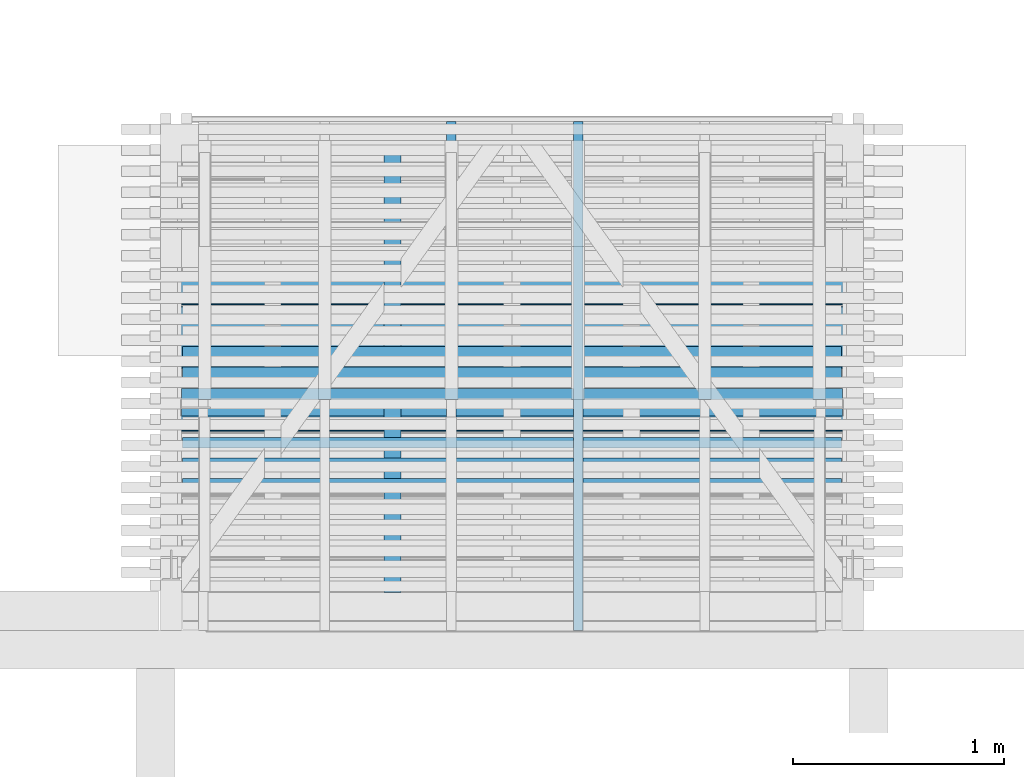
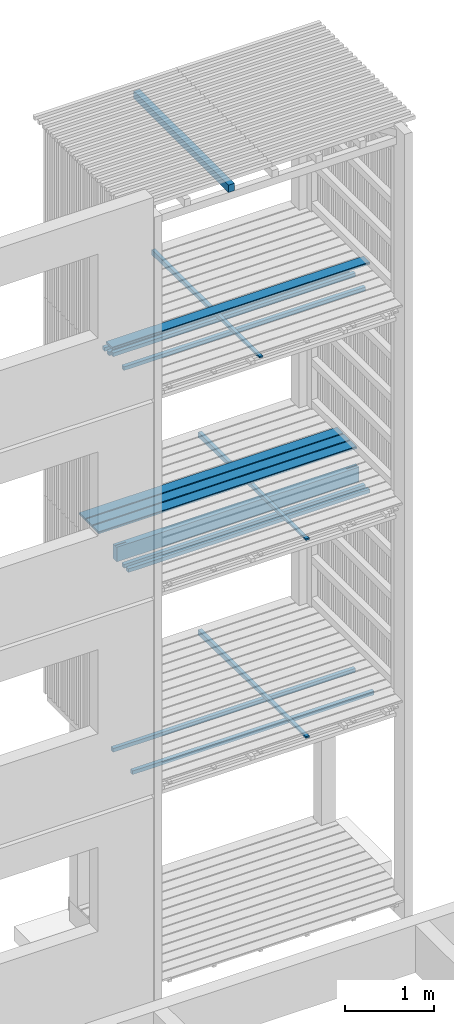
# One storey, part 122 of 182: 17 beams.
"""IFC2X3 building model written with IfcOpenShell, lengths in metres."""

from ifc_helpers import new_model, si_unit, frame, origin, place, context, project, spatial, faceted_brep, element, save


model = new_model("IFC2X3")

# Units and contexts
model_context = context("Model", 3, precision=1e-06, world=origin())
ifc_project = project(units=[si_unit("LENGTHUNIT", "METRE"), si_unit("PLANEANGLEUNIT", "RADIAN")], contexts=[model_context])

# Site, building, storey
site = spatial("IfcSite", under=ifc_project, CompositionType="ELEMENT")
building = spatial("IfcBuilding", under=site, CompositionType="ELEMENT")
storey = spatial("IfcBuildingStorey", under=building, Name="vs", CompositionType="ELEMENT", Elevation=-0.85)

# Beams
placement = place(None, origin())
beam_1_placement = place(placement, frame((54.40299999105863, 4.870077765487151, 8.084400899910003), z_axis=(0.0, 0.0, 1.0), x_axis=(0.0, 1.0, 0.0)))
element("IfcBeam", 1, at=beam_1_placement, inside=storey, Name="Calage", context=model_context, shape_type="Brep", body=[
    faceted_brep([(2.410000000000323, -0.022499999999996, -0.035599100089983), (0.0, -0.022499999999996, 0.012600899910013), (0.0, 0.022500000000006, 0.012600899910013), (2.410000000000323, 0.022500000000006, -0.035599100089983), (0.0, 0.022500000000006, 0.035599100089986), (0.0, 0.022500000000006, 0.012600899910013), (0.0, -0.022499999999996, 0.012600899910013), (0.0, -0.022499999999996, 0.035599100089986), (2.410000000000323, 0.022500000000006, -0.035599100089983), (0.0, 0.022500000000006, 0.012600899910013), (0.0, 0.022500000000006, 0.035599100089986), (2.410000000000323, 0.022500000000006, 0.035599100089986), (2.410000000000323, -0.022499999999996, 0.035599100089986), (0.0, -0.022499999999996, 0.035599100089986), (0.0, -0.022499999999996, 0.012600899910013), (2.410000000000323, -0.022499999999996, -0.035599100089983), (2.410000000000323, 0.022500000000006, 0.035599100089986), (0.0, 0.022500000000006, 0.035599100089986), (0.0, -0.022499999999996, 0.035599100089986), (2.410000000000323, -0.022499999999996, 0.035599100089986), (2.410000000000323, 0.022500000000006, -0.035599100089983), (2.410000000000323, 0.022500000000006, 0.035599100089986), (2.410000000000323, -0.022499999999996, 0.035599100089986), (2.410000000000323, -0.022499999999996, -0.035599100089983)], [[[0, 1, 2, 3]], [[4, 5, 6, 7]], [[8, 9, 10, 11]], [[12, 13, 14, 15]], [[16, 17, 18, 19]], [[20, 21, 22, 23]]]),
])
beam_2_placement = place(placement, frame((56.35499999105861, 6.184577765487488, 5.433499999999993), z_axis=(0.0, 0.0, 1.0), x_axis=(-1.0, -8e-15, 0.0)))
element("IfcBeam", 2, at=beam_2_placement, inside=storey, Name="Caillebotis", context=model_context, shape_type="Brep", body=[
    faceted_brep([(3.329999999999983, -0.072500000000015, -0.0135), (3.329999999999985, 0.072499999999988, -0.0135), (3.329999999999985, 0.072499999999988, 0.0085), (3.329999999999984, 0.067499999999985, 0.0135), (3.329999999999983, -0.067500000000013, 0.0135), (3.329999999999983, -0.072500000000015, 0.008500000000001), (-1.5e-14, -0.072499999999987, 0.008500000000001), (-1.5e-14, -0.067499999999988, 0.0135), (-1.4e-14, 0.067500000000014, 0.0135), (-1.4e-14, 0.072500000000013, 0.0085), (-1.4e-14, 0.072500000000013, -0.0135), (-1.5e-14, -0.072499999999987, -0.0135), (3.329999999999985, 0.072499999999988, 0.0085), (3.329999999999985, 0.072499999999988, -0.0135), (-1.4e-14, 0.072500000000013, -0.0135), (-1.4e-14, 0.072500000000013, 0.0085), (3.329999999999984, 0.067499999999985, 0.0135), (3.329999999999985, 0.072499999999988, 0.0085), (-1.4e-14, 0.072500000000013, 0.0085), (-1.4e-14, 0.067500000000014, 0.0135), (3.329999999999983, -0.067500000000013, 0.0135), (3.329999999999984, 0.067499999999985, 0.0135), (-1.4e-14, 0.067500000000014, 0.0135), (-1.5e-14, -0.067499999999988, 0.0135), (3.329999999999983, -0.072500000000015, 0.008500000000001), (3.329999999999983, -0.067500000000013, 0.0135), (-1.5e-14, -0.067499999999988, 0.0135), (-1.5e-14, -0.072499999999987, 0.008500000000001), (3.329999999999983, -0.072500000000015, -0.0135), (3.329999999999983, -0.072500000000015, 0.008500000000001), (-1.5e-14, -0.072499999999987, 0.008500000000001), (-1.5e-14, -0.072499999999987, -0.0135), (-1.4e-14, 0.072500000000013, -0.0135), (3.329999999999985, 0.072499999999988, -0.0135), (3.329999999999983, -0.072500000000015, -0.0135), (-1.5e-14, -0.072499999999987, -0.0135)], [[[0, 1, 2, 3, 4, 5]], [[6, 7, 8, 9, 10, 11]], [[12, 13, 14, 15]], [[16, 17, 18, 19]], [[20, 21, 22, 23]], [[24, 25, 26, 27]], [[28, 29, 30, 31]], [[32, 33, 34, 35]]]),
])
beam_3_placement = place(placement, frame((56.24999999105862, 5.564452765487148, 2.467999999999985), z_axis=(0.0, 0.0, 1.0), x_axis=(-1.0, 0.0, 0.0)))
element("IfcBeam", 3, at=beam_3_placement, inside=storey, Name="Bardage", context=model_context, shape_type="Brep", body=[
    faceted_brep([(3.120000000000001, 0.025000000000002, -0.025), (3.120000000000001, -0.024999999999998, -0.025), (-3e-15, -0.024999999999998, -0.025), (-3e-15, 0.024999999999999, -0.025), (-3e-15, -0.024999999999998, -0.025), (3.120000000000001, -0.024999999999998, -0.025), (3.120000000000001, -0.024999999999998, 0.025), (-3e-15, -0.024999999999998, 0.025), (3.120000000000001, -0.024999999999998, -0.025), (3.120000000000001, 0.025000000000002, -0.025), (3.120000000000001, 0.025000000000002, 0.025), (3.120000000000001, -0.024999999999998, 0.025), (3.120000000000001, 0.025000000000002, 0.025), (3.120000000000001, 0.025000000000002, -0.025), (-3e-15, 0.024999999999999, -0.025), (-3e-15, 0.024999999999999, 0.025), (-3e-15, -0.024999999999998, 0.025), (3.120000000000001, -0.024999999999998, 0.025), (3.120000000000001, 0.025000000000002, 0.025), (-3e-15, 0.024999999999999, 0.025), (-3e-15, -0.024999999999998, -0.025), (-3e-15, -0.024999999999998, 0.025), (-3e-15, 0.024999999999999, 0.025), (-3e-15, 0.024999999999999, -0.025)], [[[0, 1, 2, 3]], [[4, 5, 6, 7]], [[8, 9, 10, 11]], [[12, 13, 14, 15]], [[16, 17, 18, 19]], [[20, 21, 22, 23]]]),
])
beam_4_placement = place(placement, frame((53.124999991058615, 5.990077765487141, 2.517399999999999), z_axis=(0.0, 0.0, 1.0), x_axis=(1.0, 0.0, 0.0)))
element("IfcBeam", 4, at=beam_4_placement, inside=storey, Name="Ligneul", context=model_context, shape_type="Brep", body=[
    faceted_brep([(4e-15, -0.024999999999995, 0.025), (4e-15, -0.024999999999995, -0.025), (3.129999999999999, -0.024999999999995, -0.025), (3.129999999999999, -0.024999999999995, 0.025), (4e-15, 0.025000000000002, 0.025), (4e-15, -0.024999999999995, 0.025), (3.129999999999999, -0.024999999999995, 0.025), (3.129999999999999, 0.025000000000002, 0.025), (4e-15, -0.024999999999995, 0.025), (4e-15, 0.025000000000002, 0.025), (4e-15, 0.025000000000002, -0.025), (4e-15, -0.024999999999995, -0.025), (4e-15, 0.025000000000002, -0.025), (4e-15, 0.025000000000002, 0.025), (3.129999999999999, 0.025000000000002, 0.025), (3.129999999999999, 0.025000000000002, -0.025), (3.129999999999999, -0.024999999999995, -0.025), (4e-15, -0.024999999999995, -0.025), (4e-15, 0.025000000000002, -0.025), (3.129999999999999, 0.025000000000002, -0.025), (3.129999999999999, -0.024999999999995, 0.025), (3.129999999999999, -0.024999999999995, -0.025), (3.129999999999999, 0.025000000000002, -0.025), (3.129999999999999, 0.025000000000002, 0.025)], [[[0, 1, 2, 3]], [[4, 5, 6, 7]], [[8, 9, 10, 11]], [[12, 13, 14, 15]], [[16, 17, 18, 19]], [[20, 21, 22, 23]]]),
])
beam_5_placement = place(placement, frame((55.00299999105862, 4.870077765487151, 5.384400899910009), z_axis=(0.0, 0.0, 1.0), x_axis=(0.0, 1.0, 0.0)))
element("IfcBeam", 5, at=beam_5_placement, inside=storey, Name="Calage", context=model_context, shape_type="Brep", body=[
    faceted_brep([(2.410000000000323, -0.022499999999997, -0.035599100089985), (0.0, -0.022499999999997, 0.012600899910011), (0.0, 0.022500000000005, 0.012600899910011), (2.410000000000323, 0.02249999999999, -0.035599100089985), (0.0, 0.022500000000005, 0.035599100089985), (0.0, 0.022500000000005, 0.012600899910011), (0.0, -0.022499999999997, 0.012600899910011), (0.0, -0.022499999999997, 0.035599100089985), (2.410000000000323, 0.02249999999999, -0.035599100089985), (0.0, 0.022500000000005, 0.012600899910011), (0.0, 0.022500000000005, 0.035599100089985), (2.410000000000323, 0.022500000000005, 0.035599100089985), (2.410000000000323, -0.022499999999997, 0.035599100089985), (0.0, -0.022499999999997, 0.035599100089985), (0.0, -0.022499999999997, 0.012600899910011), (2.410000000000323, -0.022499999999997, -0.035599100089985), (2.410000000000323, 0.022500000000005, 0.035599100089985), (0.0, 0.022500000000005, 0.035599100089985), (0.0, -0.022499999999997, 0.035599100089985), (2.410000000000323, -0.022499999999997, 0.035599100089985), (2.410000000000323, 0.02249999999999, -0.035599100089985), (2.410000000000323, 0.022500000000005, 0.035599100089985), (2.410000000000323, -0.022499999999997, 0.035599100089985), (2.410000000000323, -0.022499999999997, -0.035599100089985)], [[[0, 1, 2, 3]], [[4, 5, 6, 7]], [[8, 9, 10, 11]], [[12, 13, 14, 15]], [[16, 17, 18, 19]], [[20, 21, 22, 23]]]),
])
beam_6_placement = place(placement, frame((53.124999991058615, 5.990077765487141, 7.917399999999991), z_axis=(0.0, 0.0, 1.0), x_axis=(1.0, 0.0, 0.0)))
element("IfcBeam", 6, at=beam_6_placement, inside=storey, Name="Ligneul", context=model_context, shape_type="Brep", body=[
    faceted_brep([(4e-15, -0.024999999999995, 0.024999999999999), (4e-15, -0.024999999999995, -0.025000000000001), (3.129999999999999, -0.024999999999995, -0.025000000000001), (3.129999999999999, -0.024999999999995, 0.024999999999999), (4e-15, 0.025000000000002, 0.024999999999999), (4e-15, -0.024999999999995, 0.024999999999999), (3.129999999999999, -0.024999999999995, 0.024999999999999), (3.129999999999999, 0.025000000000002, 0.024999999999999), (4e-15, -0.024999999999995, 0.024999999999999), (4e-15, 0.025000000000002, 0.024999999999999), (4e-15, 0.025000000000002, -0.025000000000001), (4e-15, -0.024999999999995, -0.025000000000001), (4e-15, 0.025000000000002, -0.025000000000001), (4e-15, 0.025000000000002, 0.024999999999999), (3.129999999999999, 0.025000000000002, 0.024999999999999), (3.129999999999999, 0.025000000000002, -0.025000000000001), (3.129999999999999, -0.024999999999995, -0.025000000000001), (4e-15, -0.024999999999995, -0.025000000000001), (4e-15, 0.025000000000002, -0.025000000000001), (3.129999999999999, 0.025000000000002, -0.025000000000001), (3.129999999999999, -0.024999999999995, 0.024999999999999), (3.129999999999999, -0.024999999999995, -0.025000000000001), (3.129999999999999, 0.025000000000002, -0.025000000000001), (3.129999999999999, 0.025000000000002, 0.024999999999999)], [[[0, 1, 2, 3]], [[4, 5, 6, 7]], [[8, 9, 10, 11]], [[12, 13, 14, 15]], [[16, 17, 18, 19]], [[20, 21, 22, 23]]]),
])
beam_7_placement = place(placement, frame((55.00299999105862, 4.870077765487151, 2.684400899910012), z_axis=(0.0, 0.0, 1.0), x_axis=(0.0, 1.0, 0.0)))
element("IfcBeam", 7, at=beam_7_placement, inside=storey, Name="Calage", context=model_context, shape_type="Brep", body=[
    faceted_brep([(2.410000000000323, -0.022499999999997, -0.035599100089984), (0.0, -0.022499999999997, 0.012600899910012), (0.0, 0.022500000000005, 0.012600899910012), (2.410000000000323, 0.02249999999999, -0.035599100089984), (0.0, 0.022500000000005, 0.035599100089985), (0.0, 0.022500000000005, 0.012600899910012), (0.0, -0.022499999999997, 0.012600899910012), (0.0, -0.022499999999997, 0.035599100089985), (2.410000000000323, 0.02249999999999, -0.035599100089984), (0.0, 0.022500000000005, 0.012600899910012), (0.0, 0.022500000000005, 0.035599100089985), (2.410000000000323, 0.022500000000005, 0.035599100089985), (2.410000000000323, -0.022499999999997, 0.035599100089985), (0.0, -0.022499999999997, 0.035599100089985), (0.0, -0.022499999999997, 0.012600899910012), (2.410000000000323, -0.022499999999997, -0.035599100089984), (2.410000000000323, 0.022500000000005, 0.035599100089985), (0.0, 0.022500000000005, 0.035599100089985), (0.0, -0.022499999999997, 0.035599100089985), (2.410000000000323, -0.022499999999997, 0.035599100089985), (2.410000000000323, 0.02249999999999, -0.035599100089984), (2.410000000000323, 0.022500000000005, 0.035599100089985), (2.410000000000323, -0.022499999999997, 0.035599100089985), (2.410000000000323, -0.022499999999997, -0.035599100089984)], [[[0, 1, 2, 3]], [[4, 5, 6, 7]], [[8, 9, 10, 11]], [[12, 13, 14, 15]], [[16, 17, 18, 19]], [[20, 21, 22, 23]]]),
])
beam_8_placement = place(placement, frame((56.24999999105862, 5.661327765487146, 5.167999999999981), z_axis=(0.0, 0.0, 1.0), x_axis=(-1.0, 0.0, 0.0)))
element("IfcBeam", 8, at=beam_8_placement, inside=storey, Name="Bardage", context=model_context, shape_type="Brep", body=[
    faceted_brep([(3.120000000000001, 0.024999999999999, -0.025), (3.120000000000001, -0.024999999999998, -0.025), (-3e-15, -0.025000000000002, -0.025), (-3e-15, 0.024999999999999, -0.025), (-3e-15, -0.025000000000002, -0.025), (3.120000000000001, -0.024999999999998, -0.025), (3.120000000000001, -0.024999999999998, 0.025000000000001), (-3e-15, -0.025000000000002, 0.025000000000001), (3.120000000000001, -0.024999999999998, -0.025), (3.120000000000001, 0.024999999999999, -0.025), (3.120000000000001, 0.024999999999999, 0.025000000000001), (3.120000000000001, -0.024999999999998, 0.025000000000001), (3.120000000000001, 0.024999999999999, 0.025000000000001), (3.120000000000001, 0.024999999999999, -0.025), (-3e-15, 0.024999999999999, -0.025), (-3e-15, 0.024999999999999, 0.025000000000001), (-3e-15, -0.025000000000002, 0.025000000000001), (3.120000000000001, -0.024999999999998, 0.025000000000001), (3.120000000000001, 0.024999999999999, 0.025000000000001), (-3e-15, 0.024999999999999, 0.025000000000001), (-3e-15, -0.025000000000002, -0.025), (-3e-15, -0.025000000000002, 0.025000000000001), (-3e-15, 0.024999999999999, 0.025000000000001), (-3e-15, 0.024999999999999, -0.025)], [[[0, 1, 2, 3]], [[4, 5, 6, 7]], [[8, 9, 10, 11]], [[12, 13, 14, 15]], [[16, 17, 18, 19]], [[20, 21, 22, 23]]]),
])
beam_9_placement = place(placement, frame((56.25499999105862, 5.925077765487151, 5.239999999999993), z_axis=(0.0, 0.0, 1.0), x_axis=(-1.0, -2e-15, 0.0)))
element("IfcBeam", 9, at=beam_9_placement, inside=storey, Name="Sommier", context=model_context, shape_type="Brep", body=[
    faceted_brep([(0.137000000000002, -0.003999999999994, -0.100000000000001), (1e-15, -0.003999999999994, -0.100000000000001), (1e-15, -0.003999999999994, 0.100000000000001), (0.137000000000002, -0.003999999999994, 0.100000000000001), (0.137000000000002, 0.004000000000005, -0.100000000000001), (0.137000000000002, -0.003999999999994, -0.100000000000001), (0.137000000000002, -0.003999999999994, 0.100000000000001), (0.137000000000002, 0.004000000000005, 0.100000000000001), (1e-15, 0.004000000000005, -0.100000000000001), (0.137000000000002, 0.004000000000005, -0.100000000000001), (0.137000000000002, 0.004000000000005, 0.100000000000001), (1e-15, 0.004000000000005, 0.100000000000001), (1e-15, -0.003999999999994, 0.100000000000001), (1e-15, -0.003999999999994, -0.100000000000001), (1e-15, -0.039999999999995, -0.100000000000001), (1e-15, -0.039999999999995, 0.100000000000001), (1e-15, 0.040000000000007, 0.100000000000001), (1e-15, 0.040000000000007, -0.100000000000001), (1e-15, 0.004000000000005, -0.100000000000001), (1e-15, 0.004000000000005, 0.100000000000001), (2.992999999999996, 0.004000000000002, 0.100000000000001), (2.992999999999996, 0.004000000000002, -0.100000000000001), (3.129999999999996, 0.004000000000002, -0.1), (3.129999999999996, 0.004000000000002, 0.100000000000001), (2.992999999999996, -0.004000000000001, 0.100000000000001), (2.992999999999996, -0.004000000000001, -0.100000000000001), (2.992999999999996, 0.004000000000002, -0.100000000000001), (2.992999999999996, 0.004000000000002, 0.100000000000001), (3.129999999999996, -0.004000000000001, 0.100000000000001), (3.129999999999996, -0.004000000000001, -0.100000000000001), (2.992999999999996, -0.004000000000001, -0.100000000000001), (2.992999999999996, -0.004000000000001, 0.100000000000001), (3.129999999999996, 0.004000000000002, 0.100000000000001), (3.129999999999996, 0.004000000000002, -0.1), (3.129999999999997, 0.04, -0.1), (3.129999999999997, 0.04, 0.100000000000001), (3.129999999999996, -0.040000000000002, 0.100000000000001), (3.129999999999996, -0.040000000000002, -0.1), (3.129999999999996, -0.004000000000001, -0.100000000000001), (3.129999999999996, -0.004000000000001, 0.100000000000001), (2.992999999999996, 0.004000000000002, 0.100000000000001), (3.129999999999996, 0.004000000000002, 0.100000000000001), (3.129999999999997, 0.04, 0.100000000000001), (1e-15, 0.040000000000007, 0.100000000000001), (1e-15, 0.004000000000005, 0.100000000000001), (0.137000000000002, 0.004000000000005, 0.100000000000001), (0.137000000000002, -0.003999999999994, 0.100000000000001), (1e-15, -0.003999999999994, 0.100000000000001), (1e-15, -0.039999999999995, 0.100000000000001), (3.129999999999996, -0.040000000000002, 0.100000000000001), (3.129999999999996, -0.004000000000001, 0.100000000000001), (2.992999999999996, -0.004000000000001, 0.100000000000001), (1e-15, -0.039999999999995, -0.100000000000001), (1e-15, -0.003999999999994, -0.100000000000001), (0.137000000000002, -0.003999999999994, -0.100000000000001), (0.137000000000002, 0.004000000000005, -0.100000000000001), (1e-15, 0.004000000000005, -0.100000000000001), (1e-15, 0.040000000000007, -0.100000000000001), (3.129999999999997, 0.04, -0.1), (3.129999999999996, 0.004000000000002, -0.1), (2.992999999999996, 0.004000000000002, -0.100000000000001), (2.992999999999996, -0.004000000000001, -0.100000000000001), (3.129999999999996, -0.004000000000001, -0.100000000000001), (3.129999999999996, -0.040000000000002, -0.1), (1e-15, -0.039999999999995, -0.100000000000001), (3.129999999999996, -0.040000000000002, -0.1), (3.129999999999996, -0.040000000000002, 0.100000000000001), (1e-15, -0.039999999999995, 0.100000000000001), (1e-15, 0.040000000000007, 0.100000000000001), (3.129999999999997, 0.04, 0.100000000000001), (3.129999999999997, 0.04, -0.1), (1e-15, 0.040000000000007, -0.100000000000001)], [[[0, 1, 2, 3]], [[4, 5, 6, 7]], [[8, 9, 10, 11]], [[12, 13, 14, 15]], [[16, 17, 18, 19]], [[20, 21, 22, 23]], [[24, 25, 26, 27]], [[28, 29, 30, 31]], [[32, 33, 34, 35]], [[36, 37, 38, 39]], [[40, 41, 42, 43, 44, 45, 46, 47, 48, 49, 50, 51]], [[52, 53, 54, 55, 56, 57, 58, 59, 60, 61, 62, 63]], [[64, 65, 66, 67]], [[68, 69, 70, 71]]]),
])
beam_10_placement = place(placement, frame((56.35499999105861, 6.484577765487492, 5.433499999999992), z_axis=(0.0, 0.0, 1.0), x_axis=(-1.0, -1e-14, 0.0)))
element("IfcBeam", 10, at=beam_10_placement, inside=storey, Name="Caillebotis", context=model_context, shape_type="Brep", body=[
    faceted_brep([(3.329999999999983, -0.072500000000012, -0.013499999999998), (3.329999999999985, 0.072499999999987, -0.013499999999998), (3.329999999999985, 0.072499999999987, 0.008500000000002), (3.329999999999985, 0.067499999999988, 0.013500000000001), (3.329999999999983, -0.067500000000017, 0.013500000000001), (3.329999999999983, -0.072500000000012, 0.008500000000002), (-1.5e-14, -0.07249999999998, 0.008500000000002), (-1.5e-14, -0.067499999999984, 0.013500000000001), (-1.4e-14, 0.067500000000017, 0.013500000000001), (-1.4e-14, 0.072500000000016, 0.008500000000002), (-1.4e-14, 0.072500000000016, -0.013499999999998), (-1.5e-14, -0.07249999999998, -0.013499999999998), (3.329999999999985, 0.072499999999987, 0.008500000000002), (3.329999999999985, 0.072499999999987, -0.013499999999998), (-1.4e-14, 0.072500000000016, -0.013499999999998), (-1.4e-14, 0.072500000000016, 0.008500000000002), (3.329999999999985, 0.067499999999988, 0.013500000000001), (3.329999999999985, 0.072499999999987, 0.008500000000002), (-1.4e-14, 0.072500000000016, 0.008500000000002), (-1.4e-14, 0.067500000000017, 0.013500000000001), (3.329999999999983, -0.067500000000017, 0.013500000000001), (3.329999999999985, 0.067499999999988, 0.013500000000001), (-1.4e-14, 0.067500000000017, 0.013500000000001), (-1.5e-14, -0.067499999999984, 0.013500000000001), (3.329999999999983, -0.072500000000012, 0.008500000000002), (3.329999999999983, -0.067500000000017, 0.013500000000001), (-1.5e-14, -0.067499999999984, 0.013500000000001), (-1.5e-14, -0.07249999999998, 0.008500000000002), (3.329999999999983, -0.072500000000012, -0.013499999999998), (3.329999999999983, -0.072500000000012, 0.008500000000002), (-1.5e-14, -0.07249999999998, 0.008500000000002), (-1.5e-14, -0.07249999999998, -0.013499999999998), (-1.4e-14, 0.072500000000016, -0.013499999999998), (3.329999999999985, 0.072499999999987, -0.013499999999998), (3.329999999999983, -0.072500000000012, -0.013499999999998), (-1.5e-14, -0.07249999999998, -0.013499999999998)], [[[0, 1, 2, 3, 4, 5]], [[6, 7, 8, 9, 10, 11]], [[12, 13, 14, 15]], [[16, 17, 18, 19]], [[20, 21, 22, 23]], [[24, 25, 26, 27]], [[28, 29, 30, 31]], [[32, 33, 34, 35]]]),
])
beam_11_placement = place(placement, frame((54.12333332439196, 5.050077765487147, 10.404999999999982), z_axis=(0.0, 0.0, 1.0), x_axis=(0.0, 1.0, 0.0)))
element("IfcBeam", 11, at=beam_11_placement, inside=storey, Name="Support bardage", context=model_context, shape_type="Brep", body=[
    faceted_brep([(2.120000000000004, -0.040000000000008, 0.050000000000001), (2.120000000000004, 0.03999999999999, 0.050000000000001), (3e-15, 0.03999999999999, 0.050000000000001), (3e-15, -0.040000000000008, 0.050000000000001), (3e-15, 0.03999999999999, 0.050000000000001), (2.120000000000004, 0.03999999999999, 0.050000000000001), (2.120000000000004, 0.03999999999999, -0.050000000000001), (3e-15, 0.03999999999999, -0.050000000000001), (2.120000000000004, 0.03999999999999, 0.050000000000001), (2.120000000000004, -0.040000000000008, 0.050000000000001), (2.120000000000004, -0.040000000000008, -0.050000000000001), (2.120000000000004, 0.03999999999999, -0.050000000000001), (2.120000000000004, -0.040000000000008, -0.050000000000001), (2.120000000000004, -0.040000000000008, 0.050000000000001), (3e-15, -0.040000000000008, 0.050000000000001), (3e-15, -0.040000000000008, -0.050000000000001), (3e-15, 0.03999999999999, -0.050000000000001), (2.120000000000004, 0.03999999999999, -0.050000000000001), (2.120000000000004, -0.040000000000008, -0.050000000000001), (3e-15, -0.040000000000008, -0.050000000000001), (3e-15, 0.03999999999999, 0.050000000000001), (3e-15, 0.03999999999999, -0.050000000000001), (3e-15, -0.040000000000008, -0.050000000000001), (3e-15, -0.040000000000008, 0.050000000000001)], [[[0, 1, 2, 3]], [[4, 5, 6, 7]], [[8, 9, 10, 11]], [[12, 13, 14, 15]], [[16, 17, 18, 19]], [[20, 21, 22, 23]]]),
])
beam_12_placement = place(placement, frame((56.35499999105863, 5.884577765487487, 8.13349999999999), z_axis=(0.0, 0.0, 1.0), x_axis=(-1.0, -8e-15, 0.0)))
element("IfcBeam", 12, at=beam_12_placement, inside=storey, Name="Caillebotis", context=model_context, shape_type="Brep", body=[
    faceted_brep([(3.329999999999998, -0.072500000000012, -0.013500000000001), (3.329999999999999, 0.072499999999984, -0.013500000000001), (3.329999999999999, 0.072499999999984, 0.008499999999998), (3.329999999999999, 0.067499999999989, 0.013499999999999), (3.329999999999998, -0.067500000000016, 0.013499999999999), (3.329999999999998, -0.072500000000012, 0.0085), (-1e-15, -0.072499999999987, 0.0085), (-1e-15, -0.067499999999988, 0.013499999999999), (1e-15, 0.067500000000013, 0.013499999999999), (1e-15, 0.072500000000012, 0.008499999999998), (1e-15, 0.072500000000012, -0.013500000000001), (-1e-15, -0.072499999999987, -0.013500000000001), (3.329999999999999, 0.072499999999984, 0.008499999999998), (3.329999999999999, 0.072499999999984, -0.013500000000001), (1e-15, 0.072500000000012, -0.013500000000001), (1e-15, 0.072500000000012, 0.008499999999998), (3.329999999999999, 0.067499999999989, 0.013499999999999), (3.329999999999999, 0.072499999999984, 0.008499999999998), (1e-15, 0.072500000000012, 0.008499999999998), (1e-15, 0.067500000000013, 0.013499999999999), (3.329999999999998, -0.067500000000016, 0.013499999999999), (3.329999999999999, 0.067499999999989, 0.013499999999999), (1e-15, 0.067500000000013, 0.013499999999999), (-1e-15, -0.067499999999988, 0.013499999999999), (3.329999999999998, -0.072500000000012, 0.0085), (3.329999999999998, -0.067500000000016, 0.013499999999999), (-1e-15, -0.067499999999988, 0.013499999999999), (-1e-15, -0.072499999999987, 0.0085), (3.329999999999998, -0.072500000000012, -0.013500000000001), (3.329999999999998, -0.072500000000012, 0.0085), (-1e-15, -0.072499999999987, 0.0085), (-1e-15, -0.072499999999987, -0.013500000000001), (1e-15, 0.072500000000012, -0.013500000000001), (3.329999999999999, 0.072499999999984, -0.013500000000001), (3.329999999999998, -0.072500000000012, -0.013500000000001), (-1e-15, -0.072499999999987, -0.013500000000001)], [[[0, 1, 2, 3, 4, 5]], [[6, 7, 8, 9, 10, 11]], [[12, 13, 14, 15]], [[16, 17, 18, 19]], [[20, 21, 22, 23]], [[24, 25, 26, 27]], [[28, 29, 30, 31]], [[32, 33, 34, 35]]]),
])
beam_13_placement = place(placement, frame((56.24999999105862, 6.092161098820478, 7.86739999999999), z_axis=(0.0, 0.0, 1.0), x_axis=(-1.0, 0.0, 0.0)))
element("IfcBeam", 13, at=beam_13_placement, inside=storey, Name="Bardage", context=model_context, shape_type="Brep", body=[
    faceted_brep([(3.120000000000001, 0.024999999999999, -0.024999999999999), (3.120000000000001, 0.024999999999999, 0.025000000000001), (3.120000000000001, -0.024999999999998, 0.025000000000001), (3.120000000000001, -0.024999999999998, -0.024999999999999), (-3e-15, -0.025000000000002, -0.024999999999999), (-3e-15, -0.025000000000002, 0.025000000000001), (-3e-15, 0.024999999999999, 0.025000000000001), (-3e-15, 0.024999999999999, -0.024999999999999), (-3e-15, 0.024999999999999, -0.024999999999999), (-3e-15, 0.024999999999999, 0.025000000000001), (3.120000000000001, 0.024999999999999, 0.025000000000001), (3.120000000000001, 0.024999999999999, -0.024999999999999), (-3e-15, 0.024999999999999, 0.025000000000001), (-3e-15, -0.025000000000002, 0.025000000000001), (3.120000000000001, -0.024999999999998, 0.025000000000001), (3.120000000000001, 0.024999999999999, 0.025000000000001), (-3e-15, -0.025000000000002, 0.025000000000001), (-3e-15, -0.025000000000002, -0.024999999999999), (3.120000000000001, -0.024999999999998, -0.024999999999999), (3.120000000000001, -0.024999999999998, 0.025000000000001), (-3e-15, -0.025000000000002, -0.024999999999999), (-3e-15, 0.024999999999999, -0.024999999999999), (3.120000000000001, 0.024999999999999, -0.024999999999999), (3.120000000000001, -0.024999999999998, -0.024999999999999)], [[[0, 1, 2, 3]], [[4, 5, 6, 7]], [[8, 9, 10, 11]], [[12, 13, 14, 15]], [[16, 17, 18, 19]], [[20, 21, 22, 23]]]),
])
beam_14_placement = place(placement, frame((56.24999999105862, 5.758202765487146, 7.867999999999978), z_axis=(0.0, 0.0, 1.0), x_axis=(-1.0, -1e-15, 0.0)))
element("IfcBeam", 14, at=beam_14_placement, inside=storey, Name="Bardage", context=model_context, shape_type="Brep", body=[
    faceted_brep([(3.120000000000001, 0.024999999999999, -0.025000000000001), (3.120000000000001, -0.025000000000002, -0.025000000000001), (-3e-15, -0.025000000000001, -0.025000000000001), (-3e-15, 0.025000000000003, -0.025000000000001), (-3e-15, -0.025000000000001, -0.025000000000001), (3.120000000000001, -0.025000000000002, -0.025000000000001), (3.120000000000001, -0.025000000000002, 0.024999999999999), (-3e-15, -0.025000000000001, 0.024999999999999), (3.120000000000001, -0.025000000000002, -0.025000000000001), (3.120000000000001, 0.024999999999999, -0.025000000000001), (3.120000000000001, 0.024999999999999, 0.024999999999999), (3.120000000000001, -0.025000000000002, 0.024999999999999), (3.120000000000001, 0.024999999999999, 0.024999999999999), (3.120000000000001, 0.024999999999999, -0.025000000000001), (-3e-15, 0.025000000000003, -0.025000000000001), (-3e-15, 0.025000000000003, 0.024999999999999), (-3e-15, -0.025000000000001, 0.024999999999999), (3.120000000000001, -0.025000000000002, 0.024999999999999), (3.120000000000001, 0.024999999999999, 0.024999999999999), (-3e-15, 0.025000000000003, 0.024999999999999), (-3e-15, -0.025000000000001, -0.025000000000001), (-3e-15, -0.025000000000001, 0.024999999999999), (-3e-15, 0.025000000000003, 0.024999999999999), (-3e-15, 0.025000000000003, -0.025000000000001)], [[[0, 1, 2, 3]], [[4, 5, 6, 7]], [[8, 9, 10, 11]], [[12, 13, 14, 15]], [[16, 17, 18, 19]], [[20, 21, 22, 23]]]),
])
beam_15_placement = place(placement, frame((56.35499999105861, 6.33457776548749, 5.433499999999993), z_axis=(0.0, 0.0, 1.0), x_axis=(-1.0, -8e-15, 0.0)))
element("IfcBeam", 15, at=beam_15_placement, inside=storey, Name="Caillebotis", context=model_context, shape_type="Brep", body=[
    faceted_brep([(3.329999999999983, -0.072500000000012, -0.0135), (3.329999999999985, 0.072499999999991, -0.0135), (3.329999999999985, 0.072499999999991, 0.0085), (3.329999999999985, 0.067499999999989, 0.0135), (3.329999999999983, -0.067500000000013, 0.0135), (3.329999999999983, -0.072500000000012, 0.008500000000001), (-1.5e-14, -0.072499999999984, 0.008500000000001), (-1.5e-14, -0.067499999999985, 0.0135), (-1.4e-14, 0.067500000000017, 0.0135), (-1.4e-14, 0.072500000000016, 0.0085), (-1.4e-14, 0.072500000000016, -0.0135), (-1.5e-14, -0.072499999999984, -0.0135), (3.329999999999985, 0.072499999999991, 0.0085), (3.329999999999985, 0.072499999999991, -0.0135), (-1.4e-14, 0.072500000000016, -0.0135), (-1.4e-14, 0.072500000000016, 0.0085), (3.329999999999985, 0.067499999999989, 0.0135), (3.329999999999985, 0.072499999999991, 0.0085), (-1.4e-14, 0.072500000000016, 0.0085), (-1.4e-14, 0.067500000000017, 0.0135), (3.329999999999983, -0.067500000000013, 0.0135), (3.329999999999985, 0.067499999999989, 0.0135), (-1.4e-14, 0.067500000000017, 0.0135), (-1.5e-14, -0.067499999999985, 0.0135), (3.329999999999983, -0.072500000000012, 0.008500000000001), (3.329999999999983, -0.067500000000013, 0.0135), (-1.5e-14, -0.067499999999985, 0.0135), (-1.5e-14, -0.072499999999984, 0.008500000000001), (3.329999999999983, -0.072500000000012, -0.0135), (3.329999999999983, -0.072500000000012, 0.008500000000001), (-1.5e-14, -0.072499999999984, 0.008500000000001), (-1.5e-14, -0.072499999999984, -0.0135), (-1.4e-14, 0.072500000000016, -0.0135), (3.329999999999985, 0.072499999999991, -0.0135), (3.329999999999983, -0.072500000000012, -0.0135), (-1.5e-14, -0.072499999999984, -0.0135)], [[[0, 1, 2, 3, 4, 5]], [[6, 7, 8, 9, 10, 11]], [[12, 13, 14, 15]], [[16, 17, 18, 19]], [[20, 21, 22, 23]], [[24, 25, 26, 27]], [[28, 29, 30, 31]], [[32, 33, 34, 35]]]),
])
beam_16_placement = place(placement, frame((56.24999999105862, 6.189244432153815, 7.86739999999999), z_axis=(0.0, 0.0, 1.0), x_axis=(-1.0, 0.0, 0.0)))
element("IfcBeam", 16, at=beam_16_placement, inside=storey, Name="Bardage", context=model_context, shape_type="Brep", body=[
    faceted_brep([(3.120000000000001, 0.025000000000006, -0.024999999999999), (3.120000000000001, 0.025000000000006, 0.025000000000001), (3.120000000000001, -0.024999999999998, 0.025000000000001), (3.120000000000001, -0.024999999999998, -0.024999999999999), (-3e-15, -0.024999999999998, -0.024999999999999), (-3e-15, -0.024999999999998, 0.025000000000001), (-3e-15, 0.025000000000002, 0.025000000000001), (-3e-15, 0.025000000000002, -0.024999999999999), (-3e-15, 0.025000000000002, -0.024999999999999), (-3e-15, 0.025000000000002, 0.025000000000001), (3.120000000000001, 0.025000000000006, 0.025000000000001), (3.120000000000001, 0.025000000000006, -0.024999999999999), (-3e-15, 0.025000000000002, 0.025000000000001), (-3e-15, -0.024999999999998, 0.025000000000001), (3.120000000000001, -0.024999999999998, 0.025000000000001), (3.120000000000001, 0.025000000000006, 0.025000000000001), (-3e-15, -0.024999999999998, 0.025000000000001), (-3e-15, -0.024999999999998, -0.024999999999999), (3.120000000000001, -0.024999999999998, -0.024999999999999), (3.120000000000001, -0.024999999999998, 0.025000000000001), (-3e-15, -0.024999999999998, -0.024999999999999), (-3e-15, 0.025000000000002, -0.024999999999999), (3.120000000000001, 0.025000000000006, -0.024999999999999), (3.120000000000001, -0.024999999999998, -0.024999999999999)], [[[0, 1, 2, 3]], [[4, 5, 6, 7]], [[8, 9, 10, 11]], [[12, 13, 14, 15]], [[16, 17, 18, 19]], [[20, 21, 22, 23]]]),
])
beam_17_placement = place(placement, frame((56.24999999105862, 5.758202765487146, 5.167999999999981), z_axis=(0.0, 0.0, 1.0), x_axis=(-1.0, -1e-15, 0.0)))
element("IfcBeam", 17, at=beam_17_placement, inside=storey, Name="Bardage", context=model_context, shape_type="Brep", body=[
    faceted_brep([(3.120000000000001, 0.024999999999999, -0.025), (3.120000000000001, -0.025000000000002, -0.025), (-3e-15, -0.025000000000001, -0.025), (-3e-15, 0.025000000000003, -0.025), (-3e-15, -0.025000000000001, -0.025), (3.120000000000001, -0.025000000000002, -0.025), (3.120000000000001, -0.025000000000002, 0.025000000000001), (-3e-15, -0.025000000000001, 0.025000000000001), (3.120000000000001, -0.025000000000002, -0.025), (3.120000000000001, 0.024999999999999, -0.025), (3.120000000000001, 0.024999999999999, 0.025000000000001), (3.120000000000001, -0.025000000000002, 0.025000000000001), (3.120000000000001, 0.024999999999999, 0.025000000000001), (3.120000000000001, 0.024999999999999, -0.025), (-3e-15, 0.025000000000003, -0.025), (-3e-15, 0.025000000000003, 0.025000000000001), (-3e-15, -0.025000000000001, 0.025000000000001), (3.120000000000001, -0.025000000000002, 0.025000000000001), (3.120000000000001, 0.024999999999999, 0.025000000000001), (-3e-15, 0.025000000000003, 0.025000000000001), (-3e-15, -0.025000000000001, -0.025), (-3e-15, -0.025000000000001, 0.025000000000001), (-3e-15, 0.025000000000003, 0.025000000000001), (-3e-15, 0.025000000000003, -0.025)], [[[0, 1, 2, 3]], [[4, 5, 6, 7]], [[8, 9, 10, 11]], [[12, 13, 14, 15]], [[16, 17, 18, 19]], [[20, 21, 22, 23]]]),
])

save(model, "model.ifc")
